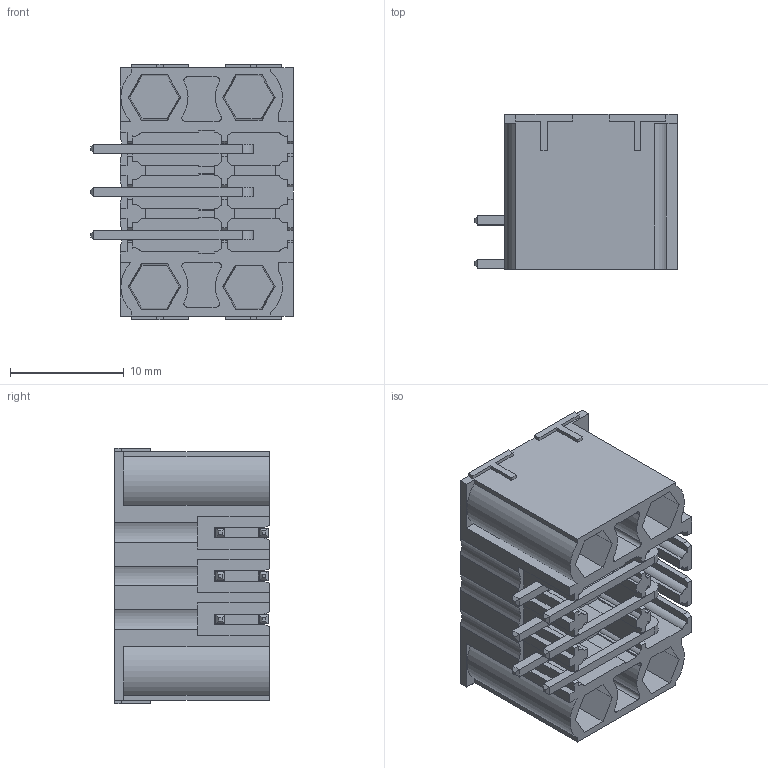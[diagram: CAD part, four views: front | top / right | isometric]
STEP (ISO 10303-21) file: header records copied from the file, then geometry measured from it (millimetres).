
FILE_DESCRIPTION((''),'2;1');
FILE_NAME('333','2019-04-12T',('zhenbing.lai'),(''),'CREO PARAMETRIC BY PTC INC, 2016260','CREO PARAMETRIC BY PTC INC, 2016260','');
FILE_SCHEMA(('CONFIG_CONTROL_DESIGN'));
Length unit declared in the file: millimetre
Products named in the file (1): 333
Bounding box: 17.8 x 13.61 x 22.42 mm (x, y, z)
Volume: 2494.2 mm3; surface area: 4052.8 mm2
Topology: 1 solids, 1 shells, 679 faces, 1857 edges, 1211 vertices
Faces by surface type: plane 601, cylinder 64, cone 14
Entity records: 21168 total; most frequent: CARTESIAN_POINT 3801, ORIENTED_EDGE 3714, DIRECTION 3380, EDGE_CURVE 1857, VECTOR 1668, LINE 1668, VERTEX_POINT 1211, AXIS2_PLACEMENT_3D 856
